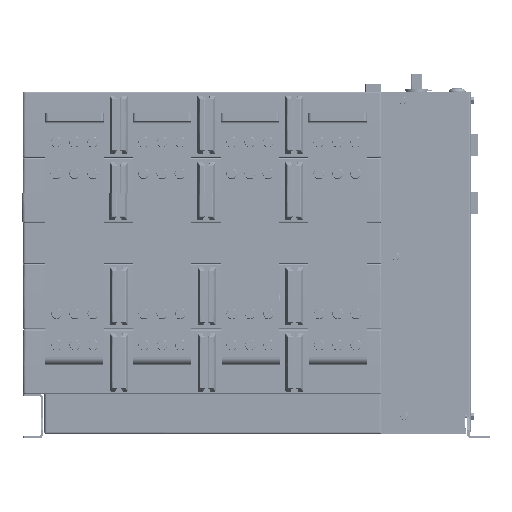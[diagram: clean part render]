
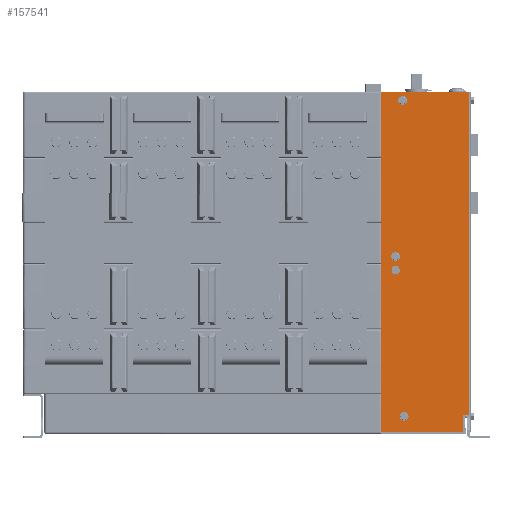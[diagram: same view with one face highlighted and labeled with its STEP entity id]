
A CAD part, left-side view. The second image highlights one B-rep face of the part: STEP entity #157541.
In plain terms, the highlighted planar face has unit normal (-1, 0, 0) as drawn and (1, 0, 0) by its records, which use the part's own axes.
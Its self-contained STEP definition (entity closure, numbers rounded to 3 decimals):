
#156169=DIRECTION('',(0.,0.,-1.));
#156170=VECTOR('',#156169,441.159);
#156171=CARTESIAN_POINT('',(101.,2.,296.659));
#156172=LINE('',#156171,#156170);
#156178=DIRECTION('',(0.,1.,0.));
#156179=VECTOR('',#156178,120.);
#156180=CARTESIAN_POINT('',(101.,2.,-144.5));
#156181=LINE('',#156180,#156179);
#156186=DIRECTION('',(0.,1.,0.));
#156187=VECTOR('',#156186,8.);
#156188=CARTESIAN_POINT('',(101.,2.,296.659));
#156189=LINE('',#156188,#156187);
#156190=DIRECTION('',(0.,1.,0.));
#156191=VECTOR('',#156190,112.);
#156192=CARTESIAN_POINT('',(101.,10.,320.659));
#156193=LINE('',#156192,#156191);
#156194=DIRECTION('',(0.,0.,-1.));
#156195=VECTOR('',#156194,465.159);
#156196=CARTESIAN_POINT('',(101.,122.,320.659));
#156197=LINE('',#156196,#156195);
#156198=CARTESIAN_POINT('',(101.,93.,-133.5));
#156199=DIRECTION('',(1.,0.,0.));
#156200=DIRECTION('',(0.,0.,-1.));
#156201=AXIS2_PLACEMENT_3D('',#156198,#156199,#156200);
#156203=CARTESIAN_POINT('',(101.,93.,-133.5));
#156204=DIRECTION('',(1.,0.,0.));
#156205=DIRECTION('',(0.,0.,1.));
#156206=AXIS2_PLACEMENT_3D('',#156203,#156204,#156205);
#156208=CARTESIAN_POINT('',(101.,102.642,80.068));
#156209=DIRECTION('',(1.,0.,0.));
#156210=DIRECTION('',(0.,0.,-1.));
#156211=AXIS2_PLACEMENT_3D('',#156208,#156209,#156210);
#156213=CARTESIAN_POINT('',(101.,102.642,80.068));
#156214=DIRECTION('',(1.,0.,0.));
#156215=DIRECTION('',(0.,0.,1.));
#156216=AXIS2_PLACEMENT_3D('',#156213,#156214,#156215);
#156218=CARTESIAN_POINT('',(101.,102.642,98.56));
#156219=DIRECTION('',(1.,0.,0.));
#156220=DIRECTION('',(0.,-1.,0.));
#156221=AXIS2_PLACEMENT_3D('',#156218,#156219,#156220);
#156223=CARTESIAN_POINT('',(101.,102.642,98.56));
#156224=DIRECTION('',(1.,0.,0.));
#156225=DIRECTION('',(0.,1.,0.));
#156226=AXIS2_PLACEMENT_3D('',#156223,#156224,#156225);
#156228=CARTESIAN_POINT('',(101.,91.,298.659));
#156229=DIRECTION('',(1.,0.,0.));
#156230=DIRECTION('',(0.,1.,0.));
#156231=AXIS2_PLACEMENT_3D('',#156228,#156229,#156230);
#156233=CARTESIAN_POINT('',(101.,91.,298.659));
#156234=DIRECTION('',(1.,0.,0.));
#156235=DIRECTION('',(0.,-1.,0.));
#156236=AXIS2_PLACEMENT_3D('',#156233,#156234,#156235);
#156477=DIRECTION('',(0.,0.,-1.));
#156478=VECTOR('',#156477,24.);
#156479=CARTESIAN_POINT('',(101.,10.,320.659));
#156480=LINE('',#156479,#156478);
#157091=CARTESIAN_POINT('',(101.,2.,-144.5));
#157092=VERTEX_POINT('',#157091);
#157095=CARTESIAN_POINT('',(101.,2.,296.659));
#157096=VERTEX_POINT('',#157095);
#157097=CARTESIAN_POINT('',(101.,122.,-144.5));
#157098=VERTEX_POINT('',#157097);
#157105=CARTESIAN_POINT('',(101.,10.,296.659));
#157106=VERTEX_POINT('',#157105);
#157107=CARTESIAN_POINT('',(101.,10.,320.659));
#157108=VERTEX_POINT('',#157107);
#157109=CARTESIAN_POINT('',(101.,122.,320.659));
#157110=VERTEX_POINT('',#157109);
#157111=CARTESIAN_POINT('',(101.,93.,-137.));
#157112=CARTESIAN_POINT('',(101.,93.,-130.));
#157113=VERTEX_POINT('',#157111);
#157114=VERTEX_POINT('',#157112);
#157115=CARTESIAN_POINT('',(101.,102.642,76.568));
#157116=CARTESIAN_POINT('',(101.,102.642,83.568));
#157117=VERTEX_POINT('',#157115);
#157118=VERTEX_POINT('',#157116);
#157119=CARTESIAN_POINT('',(101.,96.952,98.56));
#157120=CARTESIAN_POINT('',(101.,108.332,98.56));
#157121=VERTEX_POINT('',#157119);
#157122=VERTEX_POINT('',#157120);
#157123=CARTESIAN_POINT('',(101.,94.5,298.659));
#157124=CARTESIAN_POINT('',(101.,87.5,298.659));
#157125=VERTEX_POINT('',#157123);
#157126=VERTEX_POINT('',#157124);
#157500=CARTESIAN_POINT('',(101.,0.,144.5));
#157501=DIRECTION('',(1.,0.,0.));
#157502=DIRECTION('',(0.,0.,-1.));
#157503=AXIS2_PLACEMENT_3D('',#157500,#157501,#157502);
#157504=PLANE('',#157503);
#157505=ORIENTED_EDGE('',*,*,#157475,.F.);
#157507=ORIENTED_EDGE('',*,*,#157506,.T.);
#157509=ORIENTED_EDGE('',*,*,#157508,.F.);
#157511=ORIENTED_EDGE('',*,*,#157510,.T.);
#157513=ORIENTED_EDGE('',*,*,#157512,.T.);
#157514=ORIENTED_EDGE('',*,*,#157486,.F.);
#157515=EDGE_LOOP('',(#157505,#157507,#157509,#157511,#157513,#157514));
#157516=FACE_OUTER_BOUND('',#157515,.F.);
#157518=ORIENTED_EDGE('',*,*,#157517,.T.);
#157520=ORIENTED_EDGE('',*,*,#157519,.T.);
#157521=EDGE_LOOP('',(#157518,#157520));
#157522=FACE_BOUND('',#157521,.F.);
#157524=ORIENTED_EDGE('',*,*,#157523,.T.);
#157526=ORIENTED_EDGE('',*,*,#157525,.T.);
#157527=EDGE_LOOP('',(#157524,#157526));
#157528=FACE_BOUND('',#157527,.F.);
#157530=ORIENTED_EDGE('',*,*,#157529,.T.);
#157532=ORIENTED_EDGE('',*,*,#157531,.T.);
#157533=EDGE_LOOP('',(#157530,#157532));
#157534=FACE_BOUND('',#157533,.F.);
#157536=ORIENTED_EDGE('',*,*,#157535,.T.);
#157538=ORIENTED_EDGE('',*,*,#157537,.T.);
#157539=EDGE_LOOP('',(#157536,#157538));
#157540=FACE_BOUND('',#157539,.F.);
#156202=CIRCLE('',#156201,3.5);
#156207=CIRCLE('',#156206,3.5);
#156212=CIRCLE('',#156211,3.5);
#156217=CIRCLE('',#156216,3.5);
#156222=CIRCLE('',#156221,5.69);
#156227=CIRCLE('',#156226,5.69);
#156232=CIRCLE('',#156231,3.5);
#156237=CIRCLE('',#156236,3.5);
#157475=EDGE_CURVE('',#157096,#157092,#156172,.T.);
#157486=EDGE_CURVE('',#157092,#157098,#156181,.T.);
#157506=EDGE_CURVE('',#157096,#157106,#156189,.T.);
#157508=EDGE_CURVE('',#157108,#157106,#156480,.T.);
#157510=EDGE_CURVE('',#157108,#157110,#156193,.T.);
#157512=EDGE_CURVE('',#157110,#157098,#156197,.T.);
#157517=EDGE_CURVE('',#157113,#157114,#156202,.T.);
#157519=EDGE_CURVE('',#157114,#157113,#156207,.T.);
#157523=EDGE_CURVE('',#157117,#157118,#156212,.T.);
#157525=EDGE_CURVE('',#157118,#157117,#156217,.T.);
#157529=EDGE_CURVE('',#157121,#157122,#156222,.T.);
#157531=EDGE_CURVE('',#157122,#157121,#156227,.T.);
#157535=EDGE_CURVE('',#157125,#157126,#156232,.T.);
#157537=EDGE_CURVE('',#157126,#157125,#156237,.T.);
#157541=ADVANCED_FACE('',(#157516,#157522,#157528,#157534,#157540),#157504,.T.);
